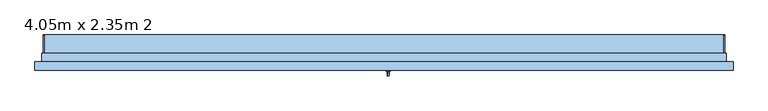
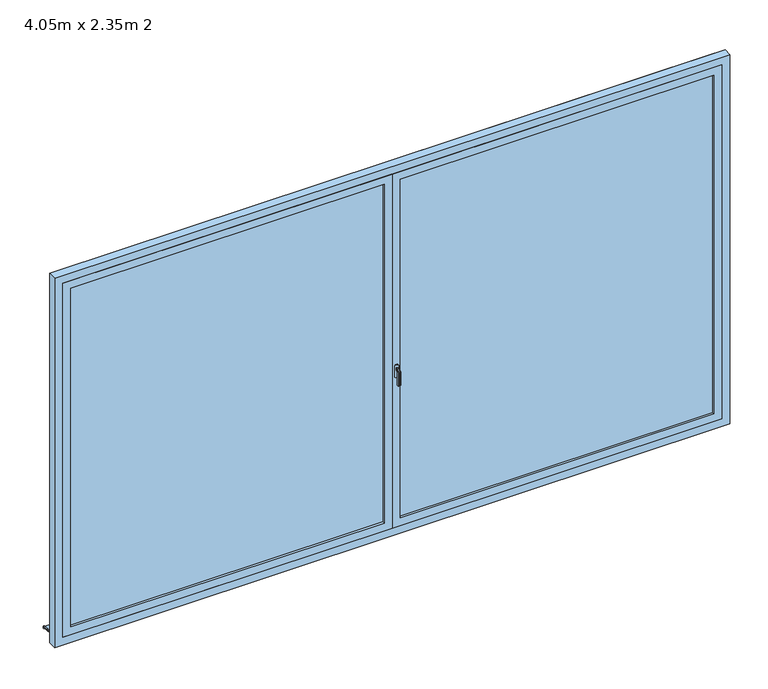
"""IFC4 building model written with IfcOpenShell, lengths in millimetres: window geometry, PF 2 Vantaux - Droits : 4.05m x 2.35m 2."""

from ifc_helpers import new_model, si_unit, point, frame, frame_2d, origin, place, context, project, spatial, polyline, circle_curve, trimmed, segment, composite_curve, outline, extrude, faceted_brep, source, transform, mapped, element, save


def window_4_05m_x_2_35m_2_aa9c86cb(model_context):
    return source(origin(), model_context, "Body", "SolidModel", [
        faceted_brep([(30.6460097, -106.0, 1122.0339292), (32.0339292, -106.0, 1120.6460097), (32.0339292, -106.0, 1109.3323012), (30.6676988, -106.0, 1107.9660708), (19.3323012, -106.0, 1107.9660708), (17.9660708, -106.0, 1109.3323012), (17.9660708, -106.0, 1120.6460097), (19.3539903, -106.0, 1122.0339292), (30.6460097, -118.9135489, 1122.0339292), (32.0339292, -118.3386538, 1120.6460097), (32.0339292, -131.6460097, 1107.3386538), (32.0339292, -131.6460097, 1020.0), (32.0339292, -120.3323012, 1020.0), (32.0339292, -120.3323012, 1102.6523623), (32.0339292, -113.6523623, 1109.3323012), (30.6676988, -113.0864511, 1107.9660708), (19.3323012, -113.0864511, 1107.9660708), (17.9660708, -113.6523623, 1109.3323012), (17.9660708, -120.3323012, 1102.6523623), (17.9660708, -120.3323012, 1020.0), (17.9660708, -131.6460097, 1020.0), (17.9660708, -131.6460097, 1107.3386538), (17.9660708, -118.3386538, 1120.6460097), (19.3539903, -118.9135489, 1122.0339292), (30.6460097, -133.0339292, 1107.9135489), (30.6676988, -118.9660708, 1102.0864511), (19.3323012, -118.9660708, 1102.0864511), (19.3539903, -133.0339292, 1107.9135489), (30.6460097, -133.0339292, 1020.0), (19.3539903, -133.0339292, 1020.0), (19.3323012, -118.9660708, 1020.0), (30.6676988, -118.9660708, 1020.0)], [[[0, 1, 2, 3, 4, 5, 6, 7]], [[1, 0, 8, 9]], [[2, 1, 9, 10, 11, 12, 13, 14]], [[3, 2, 14, 15]], [[4, 3, 15, 16]], [[5, 4, 16, 17]], [[6, 5, 17, 18, 19, 20, 21, 22]], [[7, 6, 22, 23]], [[0, 7, 23, 8]], [[9, 8, 24, 10]], [[15, 14, 13, 25]], [[16, 15, 25, 26]], [[17, 16, 26, 18]], [[23, 22, 21, 27]], [[8, 23, 27, 24]], [[28, 29, 20, 19, 30, 31, 12, 11]], [[10, 24, 28, 11]], [[25, 13, 12, 31]], [[26, 25, 31, 30]], [[18, 26, 30, 19]], [[27, 21, 20, 29]], [[24, 27, 29, 28]]]),
        extrude(outline(polyline([(1140.0, 32.0), (1140.0, 18.0), (1135.0, 13.0), (1065.0, 13.0), (1060.0, 18.0), (1060.0, 32.0), (1065.0, 37.0), (1135.0, 37.0), (1140.0, 32.0)])), frame((0.0, -106.0, 0.0), z_axis=(0.0, 1.0, 0.0), x_axis=(0.0, 0.0, 1.0)), (0.0, 0.0, 1.0), 6.0),
        extrude(outline(polyline([(110.0288776, 26.588626), (110.0288776, 15.5104235), (105.0288776, 16.0359447), (105.0288776, 21.8589354), (-20.0, 35.0), (-20.0, 50.0), (-15.0, 50.0), (-15.0, 39.7296906), (110.0288776, 26.588626)])), frame((-2025.0, 0.0, 0.0), z_axis=(1.0, 0.0, 0.0), x_axis=(0.0, 1.0, 0.0)), (0.0, 0.0, 1.0), 4050.0),
        extrude(outline(composite_curve([segment(polyline([(110.0288776, 26.588626), (-15.0, 39.7296906), (-15.0, 44.757232), (106.4469915, 31.9926388)]), True, "CONTINUOUS"), segment(trimmed(circle_curve(frame_2d((106.0288776, 28.0145512)), 4.0), [point((106.4469915, 31.9926388))], [point((110.0288776, 28.0145512))], False, "CARTESIAN"), True, "CONTINUOUS"), segment(polyline([(110.0288776, 28.0145512), (110.0288776, 26.588626)]), True, "CONTINUOUS")], self_intersect=False)), frame((-2025.0, 0.0, 0.0), z_axis=(1.0, 0.0, 0.0), x_axis=(0.0, 1.0, 0.0)), (0.0, 0.0, 1.0), 5.0),
        extrude(outline(composite_curve([segment(polyline([(110.0288776, 26.588626), (-15.0, 39.7296906), (-15.0, 44.757232), (106.4469915, 31.9926388)]), True, "CONTINUOUS"), segment(trimmed(circle_curve(frame_2d((106.0288776, 28.0145512)), 4.0), [point((106.4469915, 31.9926388))], [point((110.0288776, 28.0145512))], False, "CARTESIAN"), True, "CONTINUOUS"), segment(polyline([(110.0288776, 28.0145512), (110.0288776, 26.588626)]), True, "CONTINUOUS")], self_intersect=False)), frame((2020.0, 0.0, 0.0), z_axis=(1.0, 0.0, 0.0), x_axis=(0.0, 1.0, 0.0)), (0.0, 0.0, 1.0), 5.0),
        extrude(outline(polyline([(85.0, 0.0), (2385.0, 0.0), (2385.0, -2025.0), (85.0, -2025.0), (85.0, 0.0)]), holes=[polyline([(135.0, -1975.0), (2335.0, -1975.0), (2335.0, -50.0), (135.0, -50.0), (135.0, -1975.0)])]), frame((0.0, -100.0, 0.0), z_axis=(0.0, 1.0, 0.0), x_axis=(0.0, 0.0, 1.0)), (0.0, 0.0, 1.0), 40.0),
        extrude(outline(polyline([(50.0, -74.0), (1975.0, -74.0), (1975.0, -86.0), (50.0, -86.0), (50.0, -74.0)])), frame((0.0, 0.0, 135.0), z_axis=(0.0, 0.0, 1.0), x_axis=(1.0, 0.0, 0.0)), (0.0, 0.0, 1.0), 2200.0),
        extrude(outline(polyline([(-1975.0, -74.0), (-50.0, -74.0), (-50.0, -86.0), (-1975.0, -86.0), (-1975.0, -74.0)])), frame((0.0, 0.0, 135.0), z_axis=(0.0, 0.0, 1.0), x_axis=(1.0, 0.0, 0.0)), (0.0, 0.0, 1.0), 2200.0),
        extrude(outline(polyline([(85.0, 2025.0), (2385.0, 2025.0), (2385.0, 0.0), (85.0, 0.0), (85.0, 2025.0)]), holes=[polyline([(135.0, 50.0), (2335.0, 50.0), (2335.0, 1975.0), (135.0, 1975.0), (135.0, 50.0)])]), frame((0.0, -100.0, 0.0), z_axis=(0.0, 1.0, 0.0), x_axis=(0.0, 0.0, 1.0)), (0.0, 0.0, 1.0), 40.0),
        faceted_brep([(-2075.0, -100.0, 35.0), (-2075.0, -50.0, 35.0), (-2025.0, -50.0, 35.0), (-2025.0, -20.0, 35.0), (2025.0, -20.0, 35.0), (2025.0, -50.0, 35.0), (2075.0, -50.0, 35.0), (2075.0, -100.0, 35.0), (-2075.0, -100.0, 2435.0), (-2075.0, -50.0, 2435.0), (2075.0, -50.0, 2435.0), (2025.0, -50.0, 74.3761425), (-2025.0, -50.0, 74.3761425), (-2010.0, -50.0, 2370.0), (-2010.0, -50.0, 100.0), (2010.0, -50.0, 100.0), (2010.0, -50.0, 2370.0), (-2025.0, 0.0, 60.9786829), (-2025.0, 0.0, 45.0), (-2025.0, -10.0, 45.0), (-2025.0, -10.0, 50.0), (-2025.0, -20.0, 50.0), (2025.0, -20.0, 50.0), (2025.0, -10.0, 50.0), (2025.0, -10.0, 45.0), (2025.0, 0.0, 45.0), (2025.0, 0.0, 60.9786829), (2075.0, -100.0, 2435.0), (2025.0, -100.0, 2385.0), (2025.0, -100.0, 85.0), (-2025.0, -100.0, 85.0), (-2025.0, -100.0, 2385.0), (-2010.0, -60.0, 2370.0), (-2010.0, -60.0, 100.0), (2010.0, -60.0, 100.0), (2010.0, -60.0, 2370.0), (2025.0, -60.0, 2385.0), (-2025.0, -60.0, 2385.0), (-2025.0, -60.0, 85.0), (2025.0, -60.0, 85.0)], [[[0, 1, 2, 3, 4, 5, 6, 7]], [[1, 0, 8, 9]], [[1, 9, 10, 6, 5, 11, 12, 2], [13, 14, 15, 16]], [[12, 17, 18, 19, 20, 21, 3, 2]], [[3, 21, 22, 4]], [[4, 22, 23, 24, 25, 26, 11, 5]], [[6, 10, 27, 7]], [[0, 7, 27, 8], [28, 29, 30, 31]], [[13, 32, 33, 14]], [[33, 34, 15, 14]], [[35, 16, 15, 34]], [[17, 12, 11, 26]], [[36, 37, 38, 39], [32, 35, 34, 33]], [[38, 37, 31, 30]], [[30, 29, 39, 38]], [[28, 36, 39, 29]], [[18, 17, 26, 25]], [[19, 18, 25, 24]], [[20, 19, 24, 23]], [[21, 20, 23, 22]], [[13, 16, 35, 32]], [[10, 9, 8, 27]], [[37, 36, 28, 31]]]),
        extrude(outline(polyline([(35.0, -2035.0), (35.0, -2025.0), (2385.0, -2025.0), (2385.0, 2025.0), (35.0, 2025.0), (35.0, 2035.0), (2395.0, 2035.0), (2395.0, -2035.0), (35.0, -2035.0)])), frame((0.0, -50.0, 0.0), z_axis=(0.0, 1.0, 0.0), x_axis=(0.0, 0.0, 1.0)), (0.0, 0.0, 1.0), 50.0),
        extrude(outline(polyline([(20.0, -52.0), (20.0, -60.0), (-20.0, -60.0), (-20.0, -52.0), (20.0, -52.0)])), frame((0.0, 0.0, 100.0), z_axis=(0.0, 0.0, 1.0), x_axis=(1.0, 0.0, 0.0)), (0.0, 0.0, 1.0), 2270.0),
    ])


if __name__ == "__main__":
    model = new_model("IFC4")
    model_context = context("Model", 3, world=origin())
    ifc_project = project(units=[si_unit("LENGTHUNIT", "METRE", prefix="MILLI")], contexts=[model_context])
    site = spatial("IfcSite", under=ifc_project)
    building = spatial("IfcBuilding", under=site)
    placement = place(None, origin())
    window_4_05m_x_2_35m_2_shape = window_4_05m_x_2_35m_2_aa9c86cb(model_context)
    element("IfcWindow", 1, ObjectType="PF 2 Vantaux - Droits : 4.05m x 2.35m 2", at=placement, inside=building, context=model_context, shape_type="MappedRepresentation", body=[
        mapped(window_4_05m_x_2_35m_2_shape, transform((0.0, 0.0, 0.0), x_axis=(1.0, 0.0, 0.0), y_axis=(0.0, 1.0, 0.0), z_axis=(0.0, 0.0, 1.0))),
    ])
    save(model, "model.ifc")
